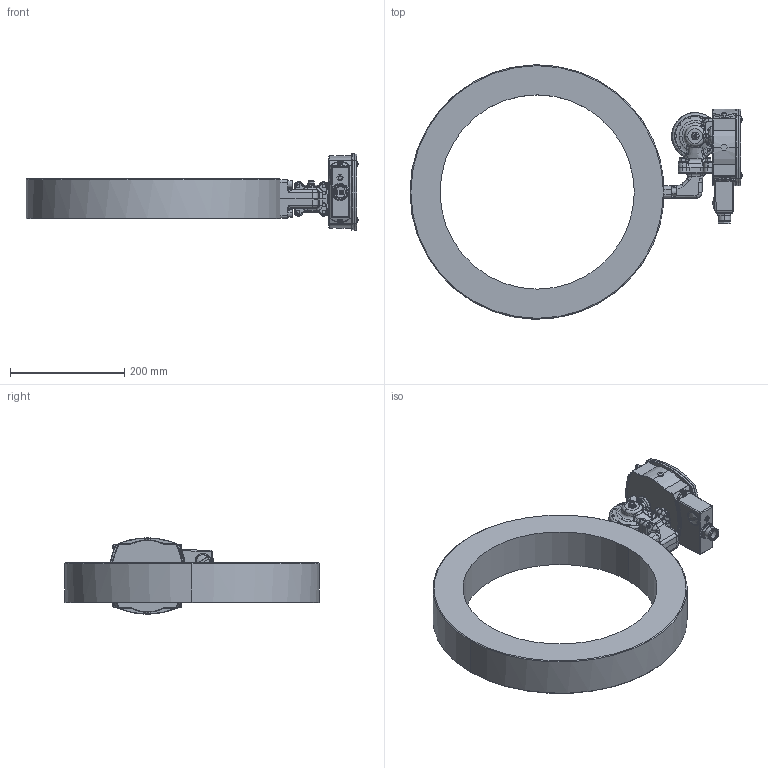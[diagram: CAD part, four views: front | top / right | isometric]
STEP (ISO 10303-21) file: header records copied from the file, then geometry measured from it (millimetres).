
FILE_DESCRIPTION (( 'STEP AP214' ), '1' );
FILE_NAME ('S FA350.STEP', '2016-09-21T07:43:55', ( 'User' ), ( 'HP' ), 'SwSTEP 2.0', 'SolidWorks 2016', '' );
FILE_SCHEMA (( 'AUTOMOTIVE_DESIGN' ));
Length unit declared in the file: millimetre
Products named in the file (35): kupolmutter_1; ID_2_4; m_X_E4ssingsmembran_1; ID_1_4; S hus; ID_1_4_8; S FA350; ID_14; ID_13; FA350 anslutningsror; ID_12; fa hals; ID_1_1; ID_2_2; ID_1_4_5; ID_1_2; ID_10; membranhus br; ID_1_4_4; M5 membranskruvar_1; ID_1_4_3; skruv_membranhus_1; ID_1_1_2; fj_X_E4derbricka till membranhus BR_1; ID_9; MC6S M6x22_1; ID_1_4_2; Lock kontrollerad HMAB ELETTA 20160908_1; ID_7_2; ID_6_1; Membranhus kontrollerad HMAB ELETTA 20160908_1; ID_5_2; ID_4_3; S2_25_internal_2_1; ID_3_3
Assembly tree (54 placements, depth 5):
  S FA350
    S hus
      ID_1_1
        ID_1_4
        ID_2_4
        ID_3_3
        ID_4_3
        ID_5_2
        ID_6_1  x4
        ID_7_2  x4
        ID_1_4_2
        ID_1_1_2
          ID_9  x2
        ID_1_4_3
        ID_1_4_4
        ID_10
        ID_1_4_5
      ID_12  x2
      ID_13
      ID_14
      ID_1_4_8
    membranhus br
      S2_25_internal_2_1
        m_X_E4ssingsmembran_1
        kupolmutter_1
      Membranhus kontrollerad HMAB ELETTA 20160908_1
      Lock kontrollerad HMAB ELETTA 20160908_1
      MC6S M6x22_1  x4
      M5 membranskruvar_1  x9
        fj_X_E4derbricka till membranhus BR_1
        skruv_membranhus_1
    fa hals
      ID_1_2
      ID_2_2  x2
    FA350 anslutningsror
Bounding box: 581 x 445 x 133.42 mm (x, y, z)
Volume: 5017257.6 mm3; surface area: 548794.8 mm2
Topology: 56 solids, 56 shells, 2415 faces, 5936 edges, 3683 vertices
Faces by surface type: plane 862, cylinder 687, bspline 585, cone 207, torus 67, sphere 7
Entity records: 101060 total; most frequent: CARTESIAN_POINT 58770, ORIENTED_EDGE 9338, DIRECTION 7188, EDGE_CURVE 4669, VERTEX_POINT 2916, AXIS2_PLACEMENT_3D 2681, EDGE_LOOP 2107, ADVANCED_FACE 1892
